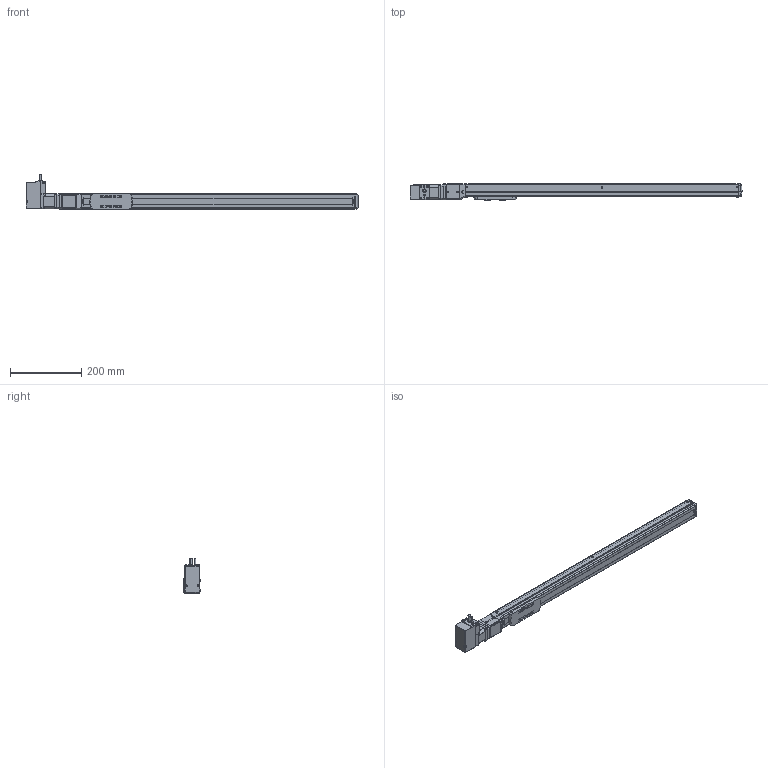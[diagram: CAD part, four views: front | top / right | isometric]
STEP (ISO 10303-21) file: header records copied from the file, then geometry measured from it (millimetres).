
FILE_DESCRIPTION(('FreeCAD Model'),'2;1');
FILE_NAME('Open CASCADE Shape Model','2023-08-01T18:06:28',('Author'),( ''),'Open CASCADE STEP processor 7.5','FreeCAD','Unknown');
FILE_SCHEMA(('AUTOMOTIVE_DESIGN { 1 0 10303 214 1 1 1 1 }'));
Length unit declared in the file: millimetre
Products named in the file (20): RCB0411; Shapes; Shapes001; Shapes002; Shapes003; Shapes004; Shapes005; Shapes006; Shapes007; Shapes008; Shapes009; Shapes010; Shapes011; Shapes012; Shapes013; KSF4-10-0600-0-AR(0); KSF4---(Cover); KSF4-AR---(Motor bracket); KSF4-10-0600---(slider); KSF4-10-0600-0-AR-(06000ARNo0)---(body)
Assembly tree (19 placements, depth 3):
  RCB0411
    Shapes
    Shapes001
    Shapes002
    Shapes003
    Shapes004
    Shapes005
    Shapes006
    Shapes007
    Shapes008
    Shapes009
    Shapes010
    Shapes011
    Shapes012
    Shapes013
    KSF4-10-0600-0-AR(0)
      KSF4---(Cover)
      KSF4-AR---(Motor bracket)
      KSF4-10-0600---(slider)
      KSF4-10-0600-0-AR-(06000ARNo0)---(body)
Bounding box: 932 x 46 x 98.19 mm (x, y, z)
Volume: 1487324.2 mm3; surface area: 280622.3 mm2
Topology: 18 solids, 18 shells, 1261 faces, 3260 edges, 2126 vertices
Faces by surface type: plane 687, cylinder 428, cone 66, torus 51, bspline 19, revolution 6, sphere 4
Full cylindrical faces by diameter (mm): 2.113 x8, 2.459 x3, 3 x6, 3.242 x4, 3.4 x16, 4 x3, 4.5 x2, 5.5 x8, 6 x1, 6.5 x18, 8 x1, 12 x1, 22 x1, 28 x1, 30 x2
Entity records: 92510 total; most frequent: CARTESIAN_POINT 26716, DIRECTION 12367, LINE 7311, VECTOR 7311, ORIENTED_EDGE 6484, PCURVE 6484, DEFINITIONAL_REPRESENTATION 6484, EDGE_CURVE 3242
